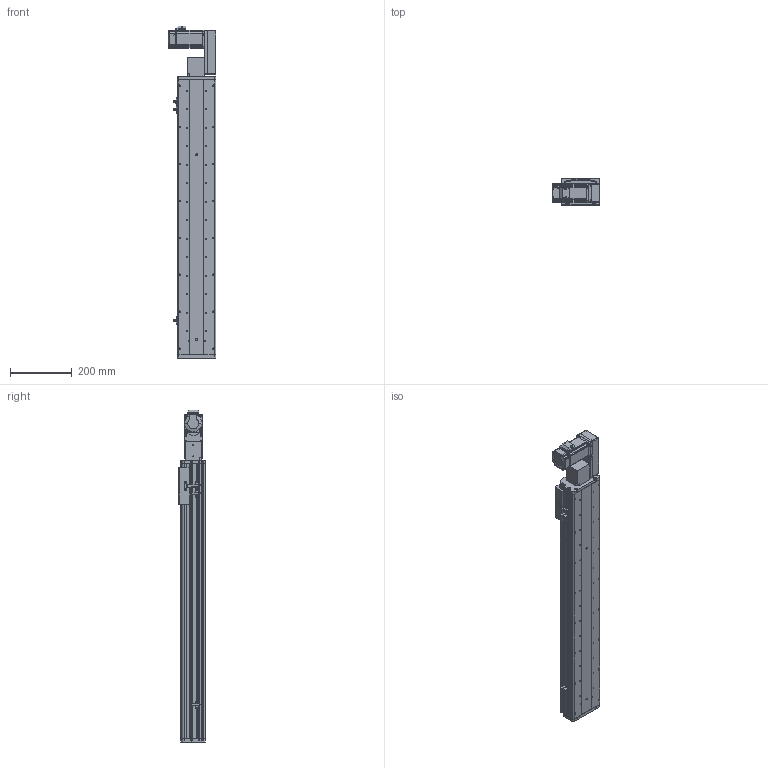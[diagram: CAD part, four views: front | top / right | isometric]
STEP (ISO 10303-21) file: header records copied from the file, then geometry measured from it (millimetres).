
FILE_DESCRIPTION (( 'STEP AP214' ), '1' );
FILE_NAME ('KSD125B-S700-MLB-CM.STEP', '2017-10-21T01:42:45', ( '微软用户' ), ( '微软中国' ), 'SwSTEP 2.0', 'SolidWorks 2014', '' );
FILE_SCHEMA (( 'AUTOMOTIVE_DESIGN' ));
Length unit declared in the file: millimetre
Products named in the file (17): KSD125B-S700-MLB-CM; 悵誘欶奻狟殏; HTPA30S3M150_A_H6_a佪裝蚚; HTPA30S3M150_A_H6_a萇儂蚚; 100宽马达安装板连板上下折丝杆同步带; 100宽马达安装板同步带左; KSD125模组700行程同步带-防尘盖; 125模组700行程同步带-底板; MHMD042G1CA_2_03; KSD125模组同步带-防撞垫2; 覜茼え68遵圉猾敕; U倰嫖萇假蚾璃; U倰嫖萇EEㄜSX672; KSD125模组同步带-防撞垫1; 前端板-125宽模组同步带; 125模组同步带-尾端板1; KSD125模组同步带-滑动座1
Assembly tree (20 placements, depth 2):
  KSD125B-S700-MLB-CM
    KSD125模组同步带-滑动座1
    125模组同步带-尾端板1
    前端板-125宽模组同步带
    KSD125模组同步带-防撞垫1
    U倰嫖萇EEㄜSX672  x3
    U倰嫖萇假蚾璃  x3
    覜茼え68遵圉猾敕
    KSD125模组同步带-防撞垫2
    MHMD042G1CA_2_03
    125模组700行程同步带-底板
    KSD125模组700行程同步带-防尘盖
    100宽马达安装板同步带左
    100宽马达安装板连板上下折丝杆同步带
    HTPA30S3M150_A_H6_a萇儂蚚
    HTPA30S3M150_A_H6_a佪裝蚚
    悵誘欶奻狟殏
Bounding box: 155 x 86 x 1078 mm (x, y, z)
Volume: 3124438.2 mm3; surface area: 1068434.3 mm2
Topology: 19 solids, 22 shells, 2271 faces, 6577 edges, 4346 vertices
Faces by surface type: cylinder 1420, plane 724, cone 105, bspline 22
Entity records: 80651 total; most frequent: CARTESIAN_POINT 15939, DIRECTION 12542, ORIENTED_EDGE 11674, EDGE_CURVE 5915, AXIS2_PLACEMENT_3D 4845, VERTEX_POINT 3938, LINE 2852, VECTOR 2852
